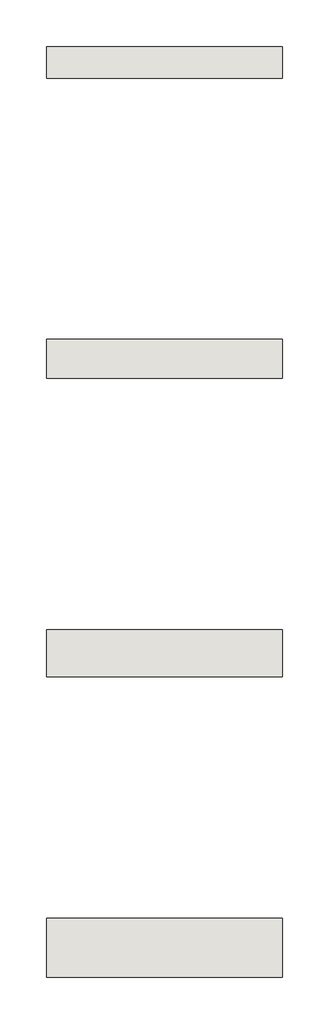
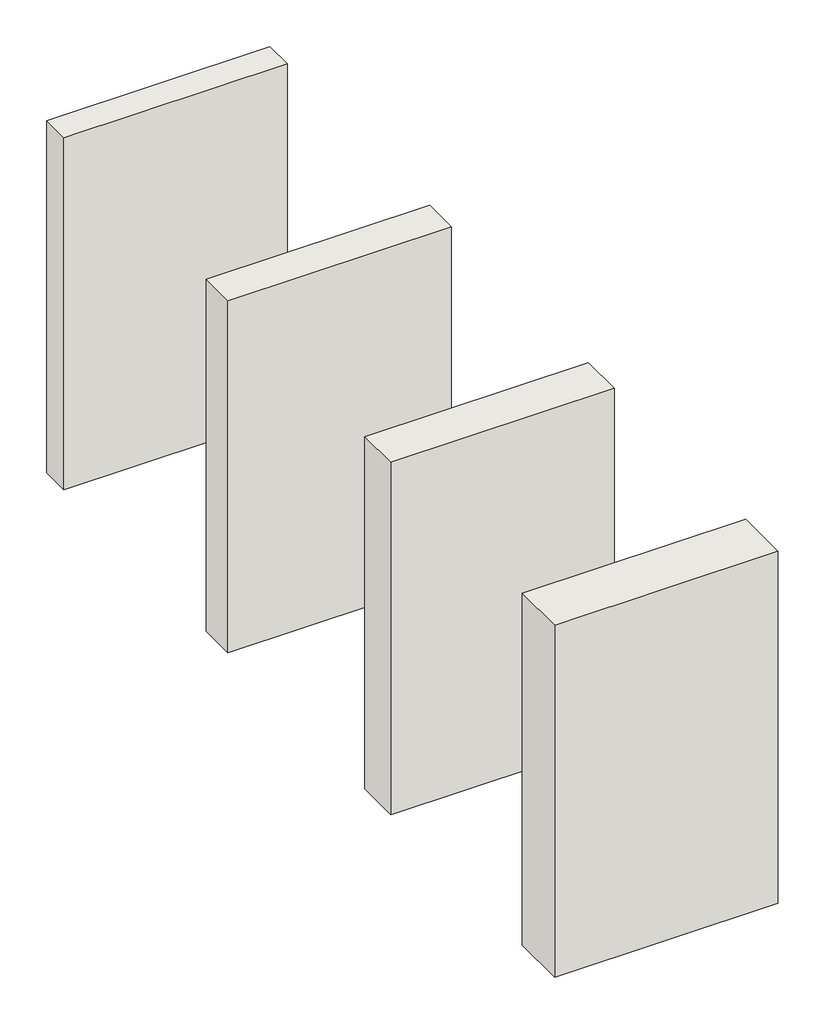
# One storey: 4 walls.
"""IFC4 building model written with IfcOpenShell, lengths in millimetres."""

from ifc_helpers import new_model, si_unit, origin, origin_with_axes, place, context, project, spatial, polyline, outline, extrude, element, save

model = new_model("IFC4")

# Units and contexts
model_context = context("Model", 3, world=origin())
ifc_project = project(units=[si_unit("LENGTHUNIT", "METRE", prefix="MILLI")], contexts=[model_context])

# Site, building, storey
site = spatial("IfcSite", under=ifc_project)
building = spatial("IfcBuilding", under=site)
storey = spatial("IfcBuildingStorey", under=building, Name="Референтни ниво", Elevation=0.0)

# Walls
placement = place(None, origin())
element("IfcWall", 1, ObjectType="Knauf Insulation - FKD-N Thermal 2 - 80 mm - 80 x 1000 x 600 mm", at=placement, inside=storey, context=model_context, shape_type="SweptSolid", body=[
    extrude(outline(polyline([(-239564.3504366, 183192.205474), (-240164.3504366, 183192.205474), (-240164.3504366, 183272.205474), (-239564.3504366, 183272.205474), (-239564.3504366, 183192.205474)])), origin_with_axes(), (0.0, 0.0, 1.0), 1000.0),
])
element("IfcWall", 2, ObjectType="Knauf Insulation - FKD-N Thermal 2 - 100 mm - 100 x 1000 x 600 mm", at=placement, inside=storey, context=model_context, shape_type="SweptSolid", body=[
    extrude(outline(polyline([(-239564.3504366, 182429.705474), (-240164.3504366, 182429.705474), (-240164.3504366, 182529.705474), (-239564.3504366, 182529.705474), (-239564.3504366, 182429.705474)])), origin_with_axes(), (0.0, 0.0, 1.0), 1000.0),
])
element("IfcWall", 3, ObjectType="Knauf Insulation - FKD-N Thermal 2 - 120 mm - 120 x 1000 x 600 mm", at=placement, inside=storey, context=model_context, shape_type="SweptSolid", body=[
    extrude(outline(polyline([(-239564.3504366, 181672.205474), (-240164.3504366, 181672.205474), (-240164.3504366, 181792.205474), (-239564.3504366, 181792.205474), (-239564.3504366, 181672.205474)])), origin_with_axes(), (0.0, 0.0, 1.0), 1000.0),
])
element("IfcWall", 4, ObjectType="Knauf Insulation - FKD-N Thermal 2 - 150 mm - 150 x 1000 x 600 mm", at=placement, inside=storey, context=model_context, shape_type="SweptSolid", body=[
    extrude(outline(polyline([(-239564.3504366, 180909.705474), (-240164.3504366, 180909.705474), (-240164.3504366, 181059.705474), (-239564.3504366, 181059.705474), (-239564.3504366, 180909.705474)])), origin_with_axes(), (0.0, 0.0, 1.0), 1000.0),
])

save(model, "model.ifc")
